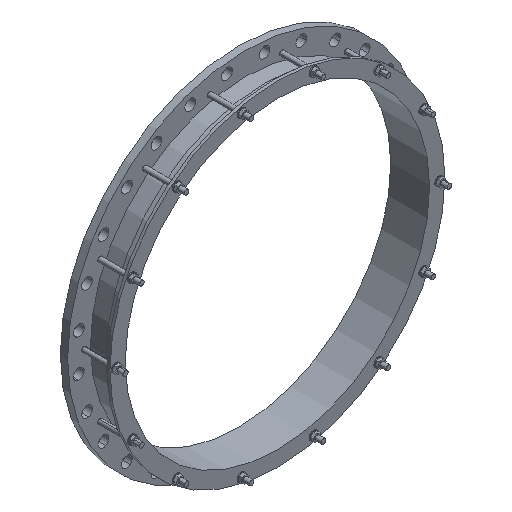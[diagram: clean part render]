
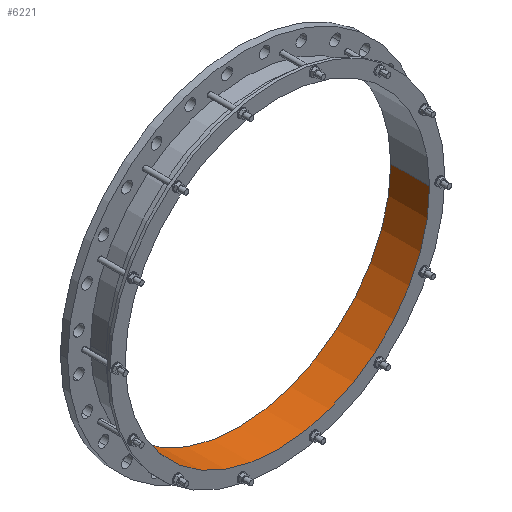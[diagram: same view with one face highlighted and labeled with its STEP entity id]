
A CAD part, isometric view. The second image highlights one B-rep face of the part: STEP entity #6221.
In plain terms, the highlighted cylindrical face has radius 525 mm (diameter 1050 mm), a partial arc.
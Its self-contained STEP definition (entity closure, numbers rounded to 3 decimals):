
#7=CARTESIAN_POINT('',(0.,25.,0.));
#8=DIRECTION('',(0.,1.,0.));
#9=DIRECTION('',(1.,0.,0.));
#10=AXIS2_PLACEMENT_3D('',#7,#8,#9);
#1700=CARTESIAN_POINT('',(0.,-109.,0.));
#1701=DIRECTION('',(0.,1.,0.));
#1702=DIRECTION('',(1.,0.,0.));
#1703=AXIS2_PLACEMENT_3D('',#1700,#1701,#1702);
#1705=DIRECTION('',(0.,1.,0.));
#1706=VECTOR('',#1705,134.);
#1707=CARTESIAN_POINT('',(525.,-109.,0.));
#1708=LINE('',#1707,#1706);
#1709=DIRECTION('',(0.,1.,0.));
#1710=VECTOR('',#1709,134.);
#1711=CARTESIAN_POINT('',(-525.,-109.,0.));
#1712=LINE('',#1711,#1710);
#4278=CARTESIAN_POINT('',(525.,-109.,0.));
#4279=CARTESIAN_POINT('',(525.,25.,0.));
#4280=VERTEX_POINT('',#4278);
#4281=VERTEX_POINT('',#4279);
#4290=CARTESIAN_POINT('',(-525.,-109.,0.));
#4291=CARTESIAN_POINT('',(-525.,25.,0.));
#4292=VERTEX_POINT('',#4290);
#4293=VERTEX_POINT('',#4291);
#6208=CARTESIAN_POINT('',(0.,-115.7,0.));
#6209=DIRECTION('',(0.,1.,0.));
#6210=DIRECTION('',(-1.,0.,0.));
#6211=AXIS2_PLACEMENT_3D('',#6208,#6209,#6210);
#6212=CYLINDRICAL_SURFACE('',#6211,525.);
#6214=ORIENTED_EDGE('',*,*,#6213,.F.);
#6215=ORIENTED_EDGE('',*,*,#6119,.T.);
#6217=ORIENTED_EDGE('',*,*,#6216,.T.);
#6218=ORIENTED_EDGE('',*,*,#5251,.F.);
#6219=EDGE_LOOP('',(#6214,#6215,#6217,#6218));
#6220=FACE_OUTER_BOUND('',#6219,.F.);
#6221=ADVANCED_FACE('',(#6220),#6212,.F.);
#11=CIRCLE('',#10,525.);
#1704=CIRCLE('',#1703,525.);
#5251=EDGE_CURVE('',#4281,#4293,#11,.T.);
#6119=EDGE_CURVE('',#4280,#4292,#1704,.T.);
#6213=EDGE_CURVE('',#4280,#4281,#1708,.T.);
#6216=EDGE_CURVE('',#4292,#4293,#1712,.T.);
